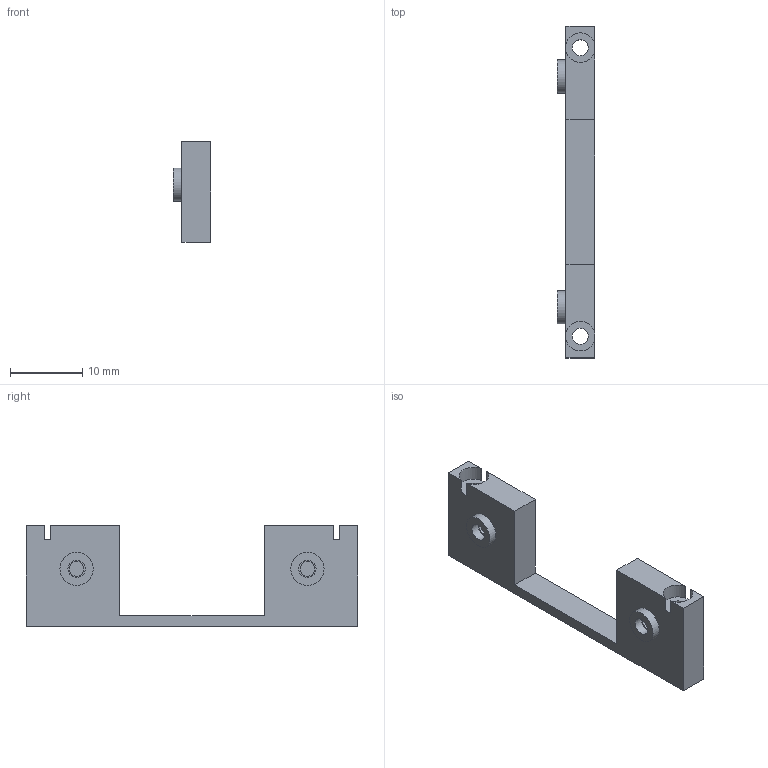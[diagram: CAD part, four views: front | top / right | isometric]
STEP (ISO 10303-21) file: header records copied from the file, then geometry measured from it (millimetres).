
FILE_DESCRIPTION(('Open CASCADE Model'),'2;1');
FILE_NAME('Open CASCADE Shape Model','2026-09-09T10:24:07',('Author'),( 'Open CASCADE'),'Open CASCADE STEP processor 7.8','Open CASCADE 7.8' ,'Unknown');
FILE_SCHEMA(('AUTOMOTIVE_DESIGN { 1 0 10303 214 1 1 1 1 }'));
Length unit declared in the file: millimetre
Products named in the file (1): Open CASCADE STEP translator 7.8 2
Bounding box: 5.2 x 46 x 14 mm (x, y, z)
Volume: 1441.6 mm3; surface area: 1647 mm2
Topology: 1 solids, 1 shells, 32 faces, 72 edges, 48 vertices
Faces by surface type: plane 20, cylinder 12
Full cylindrical faces by diameter (mm): 2.04 x2, 2.2 x2, 2.4 x2, 4.6 x2
Entity records: 1856 total; most frequent: CARTESIAN_POINT 385, DIRECTION 268, ORIENTED_EDGE 144, PCURVE 144, DEFINITIONAL_REPRESENTATION 144, LINE 140, VECTOR 140, EDGE_CURVE 72
